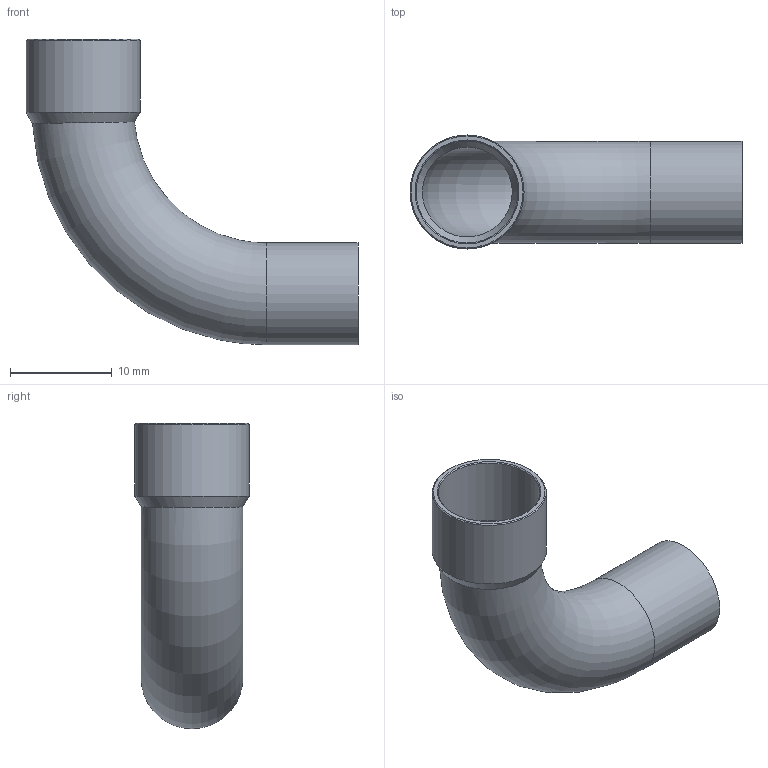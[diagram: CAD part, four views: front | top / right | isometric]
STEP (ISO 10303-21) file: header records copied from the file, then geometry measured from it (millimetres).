
FILE_DESCRIPTION((''),'2;1');
FILE_NAME('G:\SANHA-TERNAT\Technik\Management\Bouwmaten\z-maattekeningen 3D\5000\5001a\15001a10(ex).stp','2009-12-17T09:26:55',('vdvijverd'),(''),'Autodesk Inventor 2009','Autodesk Inventor 2009','');
FILE_SCHEMA(('AUTOMOTIVE_DESIGN { 1 0 10303 214 1 1 1 1 }'));
Length unit declared in the file: millimetre
Products named in the file (1): 15001a10
Bounding box: 32.6 x 11.2 x 30 mm (x, y, z)
Volume: 804.3 mm3; surface area: 2716 mm2
Topology: 1 solids, 1 shells, 12 faces, 28 edges, 18 vertices
Faces by surface type: cylinder 4, cone 4, plane 2, torus 2
Full cylindrical faces by diameter (mm): 8.8 x1, 10 x2, 11.2 x1
Entity records: 338 total; most frequent: CARTESIAN_POINT 107, DIRECTION 46, ORIENTED_EDGE 24, EDGE_LOOP 24, AXIS2_PLACEMENT_3D 23, VERTEX_POINT 12, EDGE_CURVE 12, FACE_OUTER_BOUND 12
